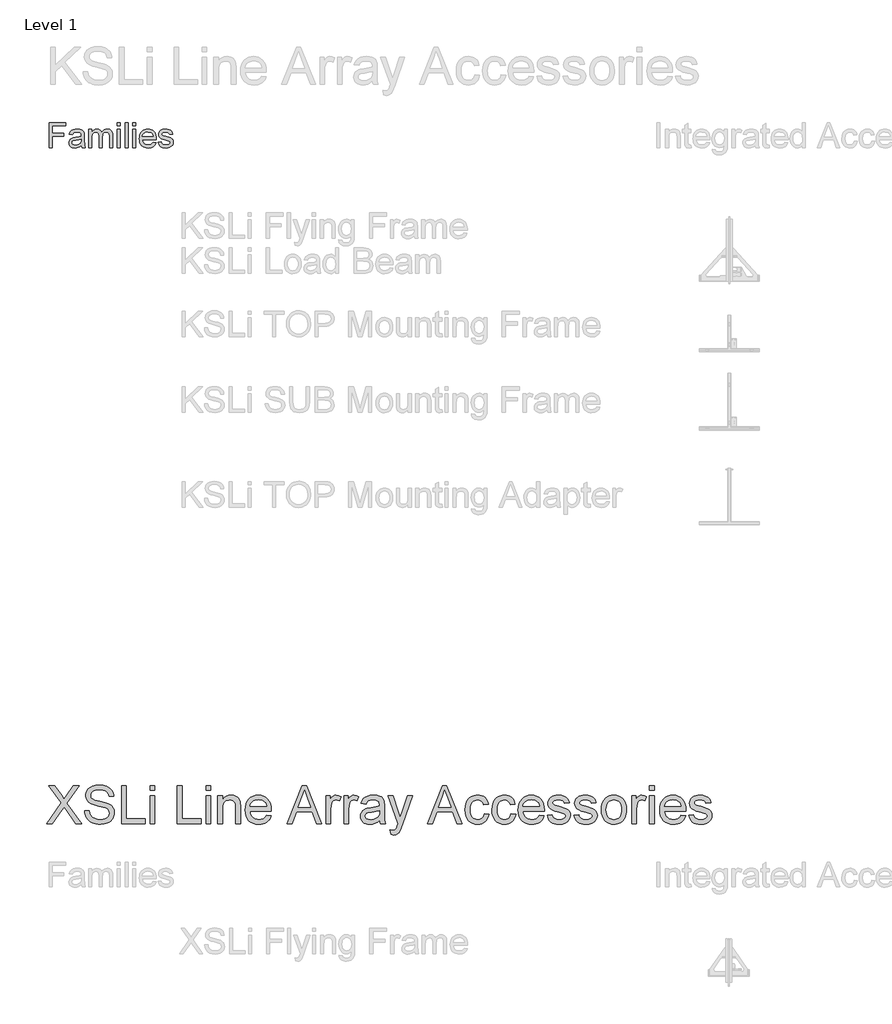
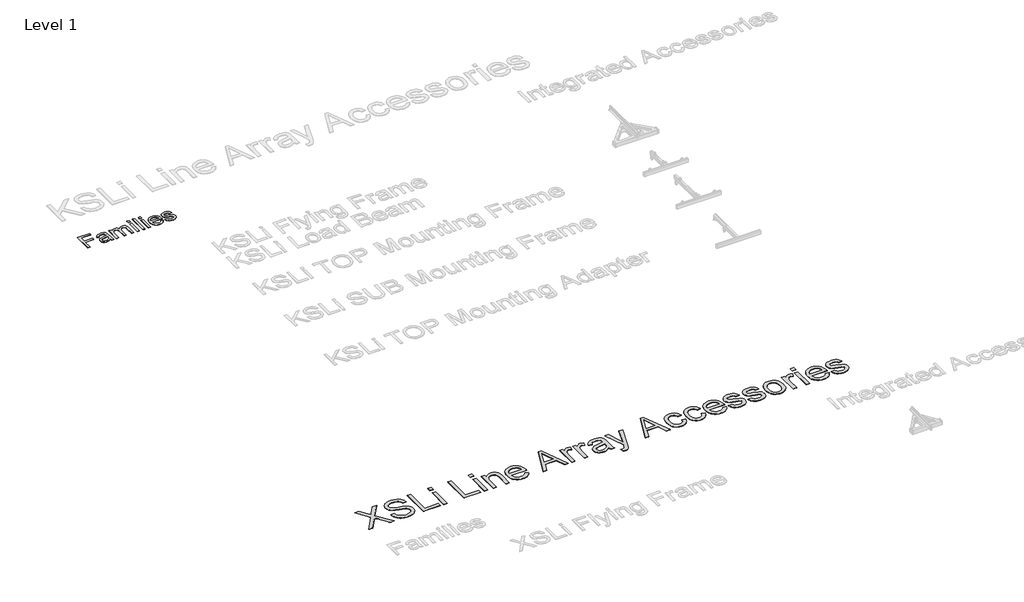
# One storey, part 31 of 52: 2 proxies.
"""IFC4 building model written with IfcOpenShell, lengths in millimetres."""

from ifc_helpers import new_model, si_unit, origin, origin_with_axes, place, context, project, spatial, polyline, outline, extrude, element, save

model = new_model("IFC4")

# Units and contexts
model_context = context("Model", 3, world=origin())
ifc_project = project(units=[si_unit("LENGTHUNIT", "METRE", prefix="MILLI")], contexts=[model_context])

# Site, building, storey
site = spatial("IfcSite", under=ifc_project)
building = spatial("IfcBuilding", under=site)
storey = spatial("IfcBuildingStorey", under=building, Name="Level 1", Elevation=0.0)

# Proxies
placement = place(None, origin())
element("IfcBuildingElementProxy", 1, Name="400mm Arial", ObjectType="400mm Arial", at=placement, inside=storey, context=model_context, shape_type="SweptSolid", body=[
    extrude(outline(polyline([(5943.279109, -49567.5695164), (5943.279109, -49175.8119407), (6206.4912302, -49175.8119407), (6206.4912302, -49224.7816376), (5992.2488059, -49224.7816376), (5992.2488059, -49341.0846679), (6175.8851696, -49341.0846679), (6175.8851696, -49390.0543649), (5992.2488059, -49390.0543649), (5992.2488059, -49567.5695164), (5943.279109, -49567.5695164)])), origin_with_axes(), (0.0, 0.0, 1.0), 5.0),
    extrude(outline(polyline([(6451.339715, -49530.8422437), (6427.9428164, -49550.90356), (6403.8524991, -49564.0306907), (6378.5188107, -49571.2757191), (6351.3917984, -49573.6907285), (6329.5879691, -49572.2381362), (6310.4681478, -49567.8803592), (6294.0323346, -49560.6173976), (6280.2805294, -49550.4492513), (6269.4219534, -49538.0215169), (6261.6658277, -49523.979791), (6257.0121523, -49508.3240737), (6255.4609271, -49491.0543649), (6257.8042037, -49470.7539388), (6264.8340332, -49452.3185695), (6275.6776648, -49436.5373195), (6289.4623476, -49424.1992513), (6323.7506999, -49408.1310695), (6366.120965, -49400.7664861), (6416.1905673, -49393.019327), (6451.0527832, -49383.9331528), (6451.339715, -49373.0297437), (6447.9682662, -49351.1751035), (6437.8539196, -49336.8763346), (6415.2341279, -49326.2598573), (6383.7194499, -49322.7210316), (6354.5480484, -49325.0762636), (6334.1758893, -49332.1419596), (6320.2836071, -49345.2093128), (6310.5518362, -49365.5695164), (6261.5821393, -49359.4483043), (6270.0824944, -49332.6680013), (6282.7672718, -49311.6263346), (6300.8200654, -49295.5342418), (6325.4244688, -49283.6026604), (6355.5164432, -49276.214166), (6390.0319499, -49273.7513346), (6423.1367084, -49275.9272342), (6449.3790143, -49282.4549331), (6469.1653542, -49292.2703924), (6482.902215, -49304.3095732), (6492.0123003, -49319.1941613), (6497.9183135, -49337.5458422), (6500.309412, -49380.394327), (6500.309412, -49441.3195164), (6502.7961544, -49526.3948005), (6512.5518362, -49567.5695164), (6463.5821393, -49567.5695164), (6455.7393362, -49550.5448952), (6451.339715, -49530.8422437)]), holes=[polyline([(6451.339715, -49432.9028498), (6418.4381999, -49441.0564956), (6372.3378211, -49447.9189482), (6330.2066658, -49455.8573952), (6319.2434792, -49461.2851888), (6311.1256999, -49468.769327), (6306.1043931, -49477.7359464), (6304.4306241, -49487.6111831), (6308.0770493, -49502.1729729), (6319.0163249, -49514.1045543), (6337.009341, -49522.0669123), (6361.8169878, -49524.7210316), (6388.1190711, -49521.7919359), (6411.3605484, -49513.004649), (6430.2024044, -49500.0568507), (6443.3056241, -49484.646221), (6449.1159934, -49468.769327), (6451.0527832, -49446.771221), (6451.339715, -49432.9028498)])]), origin_with_axes(), (0.0, 0.0, 1.0), 5.0),
    extrude(outline(polyline([(6567.6427453, -49567.5695164), (6567.6427453, -49279.8725467), (6616.6124423, -49279.8725467), (6616.6124423, -49327.2162967), (6631.341609, -49305.469256), (6650.279109, -49288.4326793), (6672.7793457, -49277.4216708), (6698.1967226, -49273.7513346), (6725.4313343, -49277.4934037), (6747.2620635, -49288.7196111), (6763.5693552, -49306.6887162), (6774.2336544, -49330.6594785), (6792.0832046, -49305.7621656), (6812.4434082, -49287.9783706), (6835.3142652, -49277.3080936), (6860.6957756, -49273.7513346), (6880.2997943, -49275.2308268), (6897.5067368, -49279.6693034), (6912.316603, -49287.0667643), (6924.7293931, -49297.4232096), (6934.5418635, -49310.8581942), (6941.5507709, -49327.4912731), (6945.7561154, -49347.3224461), (6947.1578968, -49370.3517134), (6947.1578968, -49567.5695164), (6898.1881999, -49567.5695164), (6898.1881999, -49391.3933801), (6893.6451128, -49350.505596), (6887.2608798, -49339.2315666), (6877.1943552, -49330.3725467), (6864.2465569, -49324.6339104), (6849.2185029, -49322.7210316), (6822.6892652, -49327.6227835), (6801.0617794, -49342.3280392), (6792.6720126, -49353.6080463), (6786.679322, -49367.84106), (6781.8851696, -49405.1661073), (6781.8851696, -49567.5695164), (6732.9154726, -49567.5695164), (6732.9154726, -49385.9416755), (6730.0820209, -49358.2527551), (6721.5816658, -49338.5022816), (6706.6253448, -49326.6663441), (6684.4239953, -49322.7210316), (6665.5582283, -49325.3512399), (6648.1749423, -49333.2418649), (6633.8283514, -49346.2016187), (6624.0726696, -49364.0392134), (6618.4774991, -49388.7870827), (6616.6124423, -49422.4776604), (6616.6124423, -49567.5695164), (6567.6427453, -49567.5695164)])), origin_with_axes(), (0.0, 0.0, 1.0), 5.0),
    extrude(outline(polyline([(7020.6124423, -49224.7816376), (7020.6124423, -49175.8119407), (7069.5821393, -49175.8119407), (7069.5821393, -49224.7816376), (7020.6124423, -49224.7816376)])), origin_with_axes(), (0.0, 0.0, 1.0), 5.0),
    extrude(outline(polyline([(7020.6124423, -49567.5695164), (7020.6124423, -49279.8725467), (7069.5821393, -49279.8725467), (7069.5821393, -49567.5695164), (7020.6124423, -49567.5695164)])), origin_with_axes(), (0.0, 0.0, 1.0), 5.0),
    extrude(outline(polyline([(7143.0366847, -49567.5695164), (7143.0366847, -49175.8119407), (7192.0063817, -49175.8119407), (7192.0063817, -49567.5695164), (7143.0366847, -49567.5695164)])), origin_with_axes(), (0.0, 0.0, 1.0), 5.0),
    extrude(outline(polyline([(7265.4609271, -49224.7816376), (7265.4609271, -49175.8119407), (7314.4306241, -49175.8119407), (7314.4306241, -49224.7816376), (7265.4609271, -49224.7816376)])), origin_with_axes(), (0.0, 0.0, 1.0), 5.0),
    extrude(outline(polyline([(7265.4609271, -49567.5695164), (7265.4609271, -49279.8725467), (7314.4306241, -49279.8725467), (7314.4306241, -49567.5695164), (7265.4609271, -49567.5695164)])), origin_with_axes(), (0.0, 0.0, 1.0), 5.0),
    extrude(outline(polyline([(7589.3113059, -49481.8725467), (7637.3245635, -49487.9937589), (7629.9629691, -49507.2241684), (7620.024966, -49524.1710789), (7607.5105543, -49538.8344904), (7592.419734, -49551.2144028), (7574.9079264, -49561.0477953), (7555.1305531, -49568.0716471), (7508.779109, -49573.6907285), (7478.394225, -49571.2667525), (7451.3210124, -49563.9948242), (7427.5594712, -49551.8749437), (7407.1096014, -49534.9071111), (7390.6648216, -49513.5635683), (7378.9185503, -49488.3165571), (7371.8707875, -49459.1660777), (7369.5215332, -49426.1121301), (7371.8946985, -49391.937355), (7379.0141942, -49361.8154918), (7390.8800204, -49335.7465406), (7407.4921771, -49313.7305013), (7427.8882472, -49296.2396159), (7451.1058135, -49283.7461263), (7477.144876, -49276.2500325), (7506.0054347, -49273.7513346), (7533.9364539, -49276.2440548), (7559.1954205, -49283.7222153), (7581.7823346, -49296.1858161), (7601.6971961, -49313.6348573), (7617.9536769, -49335.6030747), (7629.5654489, -49361.6242039), (7636.5325121, -49391.6982451), (7638.8548665, -49425.8251982), (7638.5679347, -49439.0240619), (7418.4912302, -49439.0240619), (7421.3276708, -49458.5653142), (7426.9676743, -49475.6796017), (7435.4112408, -49490.3669241), (7446.6583703, -49502.6272816), (7475.0765758, -49519.1975941), (7509.7355484, -49524.7210316), (7535.7985218, -49522.1625562), (7557.7488059, -49514.4871301), (7575.5864006, -49501.2165335), (7589.3113059, -49481.8725467)]), holes=[polyline([(7418.4912302, -49390.0543649), (7589.8851696, -49390.0543649), (7583.2618268, -49364.1826793), (7570.278162, -49345.675577), (7556.923877, -49335.6329634), (7541.7284461, -49328.4596679), (7505.8141468, -49322.7210316), (7472.8050323, -49327.2999852), (7445.5106431, -49341.036846), (7426.5372766, -49362.4491329), (7418.4912302, -49390.0543649)])]), origin_with_axes(), (0.0, 0.0, 1.0), 5.0),
    extrude(outline(polyline([(7669.4609271, -49481.8725467), (7718.4306241, -49475.7513346), (7726.1538722, -49496.6973573), (7741.0982378, -49512.0960316), (7763.3593646, -49521.5647816), (7793.0328968, -49524.7210316), (7822.3477643, -49521.8278024), (7842.9590332, -49513.1481149), (7855.1536355, -49500.5709369), (7859.2185029, -49485.9852361), (7855.1297245, -49473.503702), (7842.8633893, -49463.9871301), (7792.4590332, -49450.0231149), (7718.7175559, -49426.0643081), (7700.0550323, -49414.0251272), (7686.5333703, -49398.0884558), (7678.319947, -49379.2705107), (7675.5821393, -49358.5875089), (7677.7819499, -49339.6141424), (7684.3813817, -49322.099346), (7694.7826601, -49306.7365382), (7708.3880105, -49294.2191376), (7739.5201128, -49279.7290808), (7781.6512681, -49273.7513346), (7813.5246109, -49276.1543886), (7841.2374423, -49283.3635505), (7863.5224802, -49294.6734464), (7879.1124423, -49309.378702), (7889.4419878, -49328.5672674), (7895.9457756, -49353.3270922), (7846.9760787, -49359.4483043), (7840.7950891, -49344.0376746), (7828.5646203, -49332.4288914), (7810.1651175, -49325.1479965), (7785.4770256, -49322.7210316), (7757.3577075, -49325.0403971), (7738.6114953, -49331.9984937), (7728.066751, -49342.0411073), (7724.5518362, -49353.614024), (7730.3861165, -49367.864971), (7748.654109, -49378.6727361), (7790.8330862, -49389.0979255), (7862.7095067, -49412.1481149), (7881.6948287, -49423.1710789), (7896.0892415, -49438.2589104), (7905.1634603, -49457.4594312), (7908.1881999, -49480.8204634), (7904.6374186, -49504.9705581), (7893.9850749, -49527.6859937), (7876.6376554, -49547.1854018), (7853.0016468, -49561.6874142), (7824.4519309, -49570.6899), (7792.3633893, -49573.6907285), (7766.0075062, -49572.244114), (7742.9872056, -49567.9042702), (7723.3024873, -49560.6711973), (7706.9533514, -49550.5448952), (7693.5990664, -49537.5731859), (7682.8989006, -49521.8038914), (7674.8528542, -49503.2370117), (7669.4609271, -49481.8725467)])), origin_with_axes(), (0.0, 0.0, 1.0), 5.0),
])
element("IfcBuildingElementProxy", 2, Name="600mm Arial", ObjectType="600mm Arial", at=placement, inside=storey, context=model_context, shape_type="SweptSolid", body=[
    extrude(outline(polyline([(5900.4306241, -60267.5695164), (6132.7848923, -59939.1244711), (5938.1017404, -59664.8316555), (6028.4535584, -59664.8316555), (6138.082393, -59819.1949407), (6164.2388029, -59858.3007968), (6175.0177453, -59879.3804351), (6218.280668, -59818.1648711), (6326.7322801, -59664.8316555), (6418.4084733, -59664.8316555), (6223.7253215, -59940.0073879), (6456.0795896, -60267.5695164), (6365.7277716, -60267.5695164), (6210.923028, -60049.1947641), (6178.6965653, -60003.8717023), (6143.2327409, -60053.609348), (5992.1068173, -60267.5695164), (5900.4306241, -60267.5695164)])), origin_with_axes(), (0.0, 0.0, 1.0), 5.0),
    extrude(outline(polyline([(6503.168485, -60060.3783767), (6578.5107176, -60060.3783767), (6587.1559445, -60102.1881655), (6602.7909293, -60135.7941858), (6627.1815056, -60162.4656304), (6662.0935069, -60183.4716923), (6704.7678184, -60197.1017203), (6752.4453249, -60201.6450629), (6794.4206606, -60198.2053662), (6831.1720719, -60187.8862763), (6860.9521194, -60171.5523157), (6882.0133636, -60150.0680072), (6894.5397456, -60125.4015194), (6898.7152062, -60099.521021), (6895.5882093, -60074.3027103), (6886.2072184, -60052.505702), (6867.150931, -60033.9092672), (6834.9980447, -60018.2926765), (6725.2956337, -59989.5243045), (6653.2827331, -59970.4864112), (6607.2055133, -59952.368223), (6569.6999438, -59927.0211535), (6543.1204697, -59896.3030069), (6527.2831498, -59860.8759708), (6522.0040432, -59821.4022327), (6523.6365195, -59798.9660295), (6528.5339486, -59777.2747874), (6536.6963304, -59756.3285063), (6548.1236648, -59736.1271862), (6562.6871933, -59717.4939631), (6580.2581571, -59701.2519731), (6600.8365562, -59687.4012159), (6624.4223906, -59675.9416918), (6677.4341861, -59660.5458303), (6736.1113644, -59655.4138765), (6799.6813731, -59660.7849536), (6855.3051308, -59676.898185), (6879.6405248, -59688.9003351), (6900.9960746, -59703.4224768), (6919.3717803, -59720.4646103), (6934.7676418, -59740.0267353), (6947.0640974, -59761.538635), (6956.1415857, -59784.4300922), (6962.0001065, -59808.7011068), (6964.6396598, -59834.3516789), (6889.2974272, -59834.3516789), (6884.2574438, -59810.3105905), (6875.4650641, -59789.3964991), (6862.9202881, -59771.6094046), (6846.6231157, -59756.9493071), (6826.2700443, -59745.489783), (6801.5575713, -59737.3044086), (6772.4856966, -59732.3931839), (6739.0544203, -59730.7561091), (6704.5562862, -59732.3747898), (6675.0797414, -59737.2308322), (6650.6247857, -59745.3242361), (6631.1914193, -59756.6550015), (6616.384169, -59770.2758324), (6605.8075617, -59785.2394326), (6599.4615973, -59801.545802), (6597.3462758, -59819.1949407), (6598.8453949, -59834.3792701), (6603.3427523, -59848.1472537), (6610.838348, -59860.4988917), (6621.3321819, -59871.434184), (6637.8500835, -59881.7900622), (6663.8593405, -59892.2563049), (6744.3519211, -59913.5198843), (6827.4196756, -59933.7166058), (6877.6723561, -59951.3381534), (6920.622579, -59978.6717856), (6937.2278526, -59994.7390318), (6950.5865676, -60012.4065646), (6960.8550737, -60031.5824136), (6968.189721, -60052.1746083), (6974.0574388, -60097.6080347), (6972.3697802, -60121.175475), (6967.3068042, -60144.0531365), (6958.868511, -60166.2410194), (6947.0549004, -60187.7391235), (6932.0729061, -60207.7151158), (6914.1294618, -60225.3366634), (6893.2245675, -60240.6037662), (6869.358223, -60253.5164242), (6843.2248058, -60263.7849304), (6815.518693, -60271.1195777), (6755.3883809, -60276.9872955), (6716.8481434, -60275.4054029), (6681.5728586, -60270.6597252), (6649.5625265, -60262.7502623), (6620.8171471, -60251.6770142), (6595.1619764, -60237.4215869), (6572.4222706, -60219.9655863), (6552.5980296, -60199.3090122), (6535.6892534, -60175.4518648), (6522.0684225, -60149.1666963), (6512.1080175, -60121.2260587), (6505.8080383, -60091.6299522), (6503.168485, -60060.3783767)])), origin_with_axes(), (0.0, 0.0, 1.0), 5.0),
    extrude(outline(polyline([(7087.0707878, -60267.5695164), (7087.0707878, -59664.8316555), (7162.4130204, -59664.8316555), (7162.4130204, -60192.2272838), (7463.7819508, -60192.2272838), (7463.7819508, -60267.5695164), (7087.0707878, -60267.5695164)])), origin_with_axes(), (0.0, 0.0, 1.0), 5.0),
    extrude(outline(polyline([(7539.1241834, -60267.5695164), (7539.1241834, -59824.9338998), (7614.466416, -59824.9338998), (7614.466416, -60267.5695164), (7539.1241834, -60267.5695164)])), origin_with_axes(), (0.0, 0.0, 1.0), 5.0),
    extrude(outline(polyline([(7539.1241834, -59740.1738881), (7539.1241834, -59664.8316555), (7614.466416, -59664.8316555), (7614.466416, -59740.1738881), (7539.1241834, -59740.1738881)])), origin_with_axes(), (0.0, 0.0, 1.0), 5.0),
    extrude(outline(polyline([(7972.342021, -60267.5695164), (7972.342021, -59664.8316555), (8047.6842536, -59664.8316555), (8047.6842536, -60192.2272838), (8349.053184, -60192.2272838), (8349.053184, -60267.5695164), (7972.342021, -60267.5695164)])), origin_with_axes(), (0.0, 0.0, 1.0), 5.0),
    extrude(outline(polyline([(8424.3954166, -60267.5695164), (8424.3954166, -59824.9338998), (8499.7376492, -59824.9338998), (8499.7376492, -60267.5695164), (8424.3954166, -60267.5695164)])), origin_with_axes(), (0.0, 0.0, 1.0), 5.0),
    extrude(outline(polyline([(8424.3954166, -59740.1738881), (8424.3954166, -59664.8316555), (8499.7376492, -59664.8316555), (8499.7376492, -59740.1738881), (8424.3954166, -59740.1738881)])), origin_with_axes(), (0.0, 0.0, 1.0), 5.0),
    extrude(outline(polyline([(8612.7509982, -60267.5695164), (8612.7509982, -59824.9338998), (8688.0932308, -59824.9338998), (8688.0932308, -59886.738075), (8714.2680347, -59855.57847), (8745.7035512, -59833.3216093), (8782.3997802, -59819.9674929), (8824.3567218, -59815.5161208), (8861.4944092, -59819.1029702), (8895.5050997, -59829.8635186), (8923.8688015, -59846.4549965), (8944.065523, -59867.5346349), (8957.7691273, -59893.0472512), (8966.6534775, -59922.9376633), (8970.6266031, -59995.7782984), (8970.6266031, -60267.5695164), (8895.2843705, -60267.5695164), (8895.2843705, -60005.9318415), (8893.1138667, -59966.9731382), (8886.6023554, -59939.2716239), (8874.5910082, -59919.4243903), (8855.920997, -59904.0285288), (8831.9902732, -59894.1508972), (8804.1967884, -59890.8583534), (8781.3191269, -59892.7069604), (8760.0693431, -59898.2527815), (8740.4474372, -59907.4958166), (8722.4534091, -59920.4360658), (8707.4208311, -59938.545057), (8696.6832754, -59963.2943182), (8690.2407419, -59994.6838495), (8688.0932308, -60032.7136507), (8688.0932308, -60267.5695164), (8612.7509982, -60267.5695164)])), origin_with_axes(), (0.0, 0.0, 1.0), 5.0),
    extrude(outline(polyline([(9384.1259656, -60135.7206094), (9457.9966703, -60145.1383884), (9446.6705033, -60174.7252979), (9431.3804079, -60200.7989343), (9412.126384, -60223.3592977), (9388.9084316, -60242.406388), (9361.965674, -60257.535535), (9331.5372344, -60268.3420686), (9297.623113, -60274.8259888), (9260.2233097, -60276.9872955), (9213.4747051, -60273.2578918), (9171.8212662, -60262.0696806), (9135.262993, -60243.422662), (9103.7998853, -60217.3168359), (9078.4988011, -60184.4787693), (9060.4265981, -60145.6350291), (9049.5832763, -60100.7856154), (9045.9688357, -60049.9305281), (9049.6200645, -59997.3509939), (9060.5737509, -59951.0070596), (9078.8298949, -59910.8987251), (9104.3884965, -59877.0259903), (9135.7688307, -59850.1154224), (9171.4901724, -59830.8935882), (9211.5525217, -59819.3604876), (9255.9558785, -59815.5161208), (9298.9290941, -59819.3512906), (9337.7912284, -59830.8568), (9372.5422813, -59850.032649), (9403.182253, -59876.8788375), (9428.1936301, -59910.6779959), (9446.0588995, -59950.712754), (9456.7780612, -59996.9831119), (9460.351115, -60049.4890697), (9459.9096567, -60069.7961558), (9121.3110683, -60069.7961558), (9125.6750685, -60099.8613119), (9134.352485, -60126.1924657), (9147.343318, -60148.7896172), (9164.6475673, -60167.6527665), (9185.3087399, -60182.5243962), (9208.3703424, -60193.1469888), (9233.832375, -60199.5205444), (9261.6948376, -60201.6450629), (9301.7939751, -60197.7087255), (9335.5655423, -60185.8997135), (9363.0095391, -60165.4822628), (9384.1259656, -60135.7206094)]), holes=[polyline([(9121.3110683, -59994.4539232), (9385.0088824, -59994.4539232), (9374.8185512, -59954.6490913), (9366.0537626, -59938.9957124), (9354.8425588, -59926.1750249), (9334.2963494, -59910.7239811), (9310.9174486, -59899.6875213), (9284.7058564, -59893.0656453), (9255.6615729, -59890.8583534), (9229.1694708, -59892.6195884), (9204.8754635, -59897.9032936), (9182.7795512, -59906.7094688), (9162.8817337, -59919.0381142), (9146.1844897, -59934.3190126), (9133.6902974, -59951.9819469), (9125.399157, -59972.0269171), (9121.3110683, -59994.4539232)])]), origin_with_axes(), (0.0, 0.0, 1.0), 5.0),
    extrude(outline(polyline([(9710.363719, -60267.5695164), (9950.9585438, -59664.8316555), (10015.1171638, -59664.8316555), (10255.7119886, -60267.5695164), (10176.1023249, -60267.5695164), (10107.0876626, -60079.2139349), (9858.8408922, -60079.2139349), (9789.9733827, -60267.5695164), (9710.363719, -60267.5695164)]), holes=[polyline([(9886.5056183, -60003.8717023), (10079.5700893, -60003.8717023), (10025.2707068, -59855.6888346), (9983.0378538, -59740.1738881), (9945.5138903, -59842.7393884), (9886.5056183, -60003.8717023)])]), origin_with_axes(), (0.0, 0.0, 1.0), 5.0),
    extrude(outline(polyline([(10326.7867901, -60267.5695164), (10326.7867901, -59824.9338998), (10392.7112436, -59824.9338998), (10392.7112436, -59890.416895), (10417.0650317, -59852.4514731), (10439.5058334, -59830.0842478), (10462.0202115, -59819.1581525), (10486.5947288, -59815.5161208), (10524.1186923, -59821.3286563), (10562.231267, -59838.7662628), (10537.0681385, -59906.3093972), (10510.5806349, -59894.7211143), (10484.0931312, -59890.8583534), (10461.5971472, -59894.5739615), (10441.4923962, -59905.720786), (10425.2504061, -59923.4526981), (10414.3427049, -59946.9235694), (10405.1824433, -59989.0092697), (10402.1290227, -60034.9209427), (10402.1290227, -60267.5695164), (10326.7867901, -60267.5695164)])), origin_with_axes(), (0.0, 0.0, 1.0), 5.0),
    extrude(outline(polyline([(10609.3201624, -60267.5695164), (10609.3201624, -59824.9338998), (10675.2446159, -59824.9338998), (10675.2446159, -59890.416895), (10699.598404, -59852.4514731), (10722.0392057, -59830.0842478), (10744.5535838, -59819.1581525), (10769.1281011, -59815.5161208), (10806.6520646, -59821.3286563), (10844.7646393, -59838.7662628), (10819.6015108, -59906.3093972), (10793.1140072, -59894.7211143), (10766.6265035, -59890.8583534), (10744.1305195, -59894.5739615), (10724.0257685, -59905.720786), (10707.7837784, -59923.4526981), (10696.8760772, -59946.9235694), (10687.7158156, -59989.0092697), (10684.662395, -60034.9209427), (10684.662395, -60267.5695164), (10609.3201624, -60267.5695164)])), origin_with_axes(), (0.0, 0.0, 1.0), 5.0),
    extrude(outline(polyline([(11174.386907, -60211.062842), (11138.3896537, -60241.9281414), (11101.3255427, -60262.1248629), (11062.3484453, -60273.2716874), (11020.612233, -60276.9872955), (10987.0659936, -60274.7524124), (10957.6492295, -60268.047763), (10932.3619409, -60256.8733474), (10911.2041276, -60241.2291656), (10894.4976865, -60222.1084989), (10882.5645143, -60200.5046287), (10875.404611, -60176.4175551), (10873.0179765, -60149.847278), (10876.6232201, -60118.6140966), (10887.4389507, -60090.2503948), (10904.1223992, -60065.9701831), (10925.3307962, -60046.9874721), (10950.2548014, -60032.6400743), (10978.0850743, -60022.265802), (11043.2737639, -60010.9350366), (11120.3082537, -59999.0156599), (11173.9454486, -59985.0361441), (11174.386907, -59968.2607252), (11169.1997708, -59934.6363108), (11162.7158507, -59922.1835053), (11153.6383624, -59912.6369675), (11137.9481954, -59903.1088238), (11118.8367257, -59896.3030069), (11070.3498787, -59890.8583534), (11025.4682753, -59894.481991), (10994.1247293, -59905.352904), (10972.7507854, -59925.457655), (10957.7779882, -59956.7828069), (10882.4357556, -59947.3650278), (10895.5139605, -59906.1622444), (10915.0301004, -59873.7886288), (10942.805191, -59849.0301705), (10980.6602483, -59830.672859), (11026.9581974, -59819.3053053), (11080.0619634, -59815.5161208), (11130.9952256, -59818.8638469), (11171.3702746, -59828.9070254), (11201.8125097, -59844.0085813), (11222.9473303, -59862.5314397), (11236.9636344, -59885.4320939), (11246.0503196, -59913.6670371), (11249.7291396, -59979.5914906), (11249.7291396, -60073.327823), (11253.5551123, -60204.2202369), (11259.2204951, -60236.5754583), (11268.5646977, -60267.5695164), (11193.2224651, -60267.5695164), (11181.1559357, -60241.3763184), (11174.386907, -60211.062842)]), holes=[polyline([(11174.386907, -60060.3783767), (11123.7663444, -60072.9231528), (11052.8386958, -60083.481366), (10988.0178882, -60095.6950483), (10971.1504987, -60104.0459696), (10958.660905, -60115.560676), (10950.9353831, -60129.3562508), (10948.3602091, -60144.5497772), (10953.9704096, -60166.9537907), (10970.8010108, -60185.3111023), (10998.484131, -60197.5615727), (11036.651888, -60201.6450629), (11077.1189074, -60197.1385085), (11112.8770374, -60183.6188451), (11141.8661386, -60163.6980351), (11162.0260719, -60139.9880405), (11170.9656044, -60115.560676), (11173.9454486, -60081.7155325), (11174.386907, -60060.3783767)])]), origin_with_axes(), (0.0, 0.0, 1.0), 5.0),
    extrude(outline(polyline([(11353.3247094, -60437.0895398), (11343.9069304, -60364.5432104), (11382.1666578, -60371.1650863), (11402.289803, -60369.086553), (11417.9247878, -60362.8509532), (11430.1016818, -60352.8997452), (11439.8505547, -60339.6743875), (11460.4519464, -60284.1977826), (11466.3380583, -60265.9508356), (11306.235814, -59824.9338998), (11385.698325, -59824.9338998), (11470.6054895, -60070.6790726), (11500.1832019, -60168.9771417), (11529.7609143, -60082.1569909), (11617.0225236, -59824.9338998), (11695.8964233, -59824.9338998), (11541.8274438, -60278.1645179), (11501.8018827, -60376.462587), (11481.3108555, -60407.8429212), (11458.0975017, -60429.5847471), (11431.1317514, -60442.2766759), (11399.3835352, -60446.5073189), (11377.5681329, -60444.1528741), (11353.3247094, -60437.0895398)])), origin_with_axes(), (0.0, 0.0, 1.0), 5.0),
    extrude(outline(polyline([(11932.959581, -60267.5695164), (12173.5544059, -59664.8316555), (12237.7130258, -59664.8316555), (12478.3078507, -60267.5695164), (12398.6981869, -60267.5695164), (12329.6835246, -60079.2139349), (12081.4367543, -60079.2139349), (12012.5692448, -60267.5695164), (11932.959581, -60267.5695164)]), holes=[polyline([(12109.1014803, -60003.8717023), (12302.1659514, -60003.8717023), (12247.8665689, -59855.6888346), (12205.6337159, -59740.1738881), (12168.1097523, -59842.7393884), (12109.1014803, -60003.8717023)])]), origin_with_axes(), (0.0, 0.0, 1.0), 5.0),
    extrude(outline(polyline([(12831.9160244, -60107.4672721), (12907.2582571, -60116.8850512), (12899.0636856, -60152.4362475), (12886.2521951, -60183.8947566), (12868.8237856, -60211.2605785), (12846.778457, -60234.5337133), (12821.0451115, -60253.1071555), (12792.552651, -60266.3738999), (12761.3010755, -60274.3339466), (12727.290385, -60276.9872955), (12685.0345393, -60273.2854829), (12647.1472924, -60262.1800452), (12613.6286441, -60243.6709823), (12584.4785945, -60217.7582943), (12560.883563, -60184.9294247), (12544.0299691, -60145.6718173), (12533.9178128, -60099.985472), (12530.547094, -60047.8703889), (12536.3044472, -59980.8238953), (12543.5011387, -59950.6529732), (12553.5765069, -59922.7169341), (12566.5995295, -59897.5767983), (12582.6391845, -59875.7935857), (12601.6954719, -59857.3672962), (12623.7683916, -59842.29793), (12647.8600637, -59830.5808885), (12672.9726084, -59822.2115731), (12699.1060257, -59817.1899838), (12726.2603154, -59815.5161208), (12759.6869932, -59817.8153832), (12789.9222947, -59824.7131706), (12816.9662199, -59836.209483), (12840.8187687, -59852.3043203), (12861.0752711, -59872.6298005), (12877.3310567, -59896.8180417), (12889.5861257, -59924.8690438), (12897.840478, -59956.7828069), (12822.4982454, -59966.200586), (12808.8314292, -59933.3303297), (12787.5494558, -59909.7674879), (12759.8295475, -59895.585637), (12726.8489266, -59890.8583534), (12701.2489383, -59893.185207), (12678.1597446, -59900.1657678), (12657.5813455, -59911.8000359), (12639.513741, -59928.0880113), (12624.8030597, -59949.4067729), (12614.2954302, -59976.1333998), (12607.9908525, -60008.2678921), (12605.8893266, -60045.8102497), (12607.9448673, -60083.9182259), (12614.1114892, -60116.4251987), (12624.3891924, -60143.3311681), (12638.777977, -60164.6361342), (12656.4868965, -60180.8275405), (12676.7250048, -60192.3928307), (12699.4923018, -60199.3320048), (12724.7887874, -60201.6450629), (12763.802673, -60195.8693156), (12780.674661, -60188.6496314), (12795.7900125, -60178.5420736), (12808.7256632, -60165.4362775), (12819.0585487, -60149.2218786), (12826.7886691, -60129.8988768), (12831.9160244, -60107.4672721)])), origin_with_axes(), (0.0, 0.0, 1.0), 5.0),
    extrude(outline(polyline([(13255.7160829, -60107.4672721), (13331.0583155, -60116.8850512), (13322.8637441, -60152.4362475), (13310.0522536, -60183.8947566), (13292.6238441, -60211.2605785), (13270.5785155, -60234.5337133), (13244.8451699, -60253.1071555), (13216.3527094, -60266.3738999), (13185.1011339, -60274.3339466), (13151.0904435, -60276.9872955), (13108.8345978, -60273.2854829), (13070.9473508, -60262.1800452), (13037.4287025, -60243.6709823), (13008.2786529, -60217.7582943), (12984.6836215, -60184.9294247), (12967.8300276, -60145.6718173), (12957.7178712, -60099.985472), (12954.3471524, -60047.8703889), (12960.1045057, -59980.8238953), (12967.3011972, -59950.6529732), (12977.3765653, -59922.7169341), (12990.399588, -59897.5767983), (13006.439243, -59875.7935857), (13025.4955303, -59857.3672962), (13047.56845, -59842.29793), (13071.6601222, -59830.5808885), (13096.7726669, -59822.2115731), (13122.9060841, -59817.1899838), (13150.0603739, -59815.5161208), (13183.4870517, -59817.8153832), (13213.7223531, -59824.7131706), (13240.7662783, -59836.209483), (13264.6188272, -59852.3043203), (13284.8753295, -59872.6298005), (13301.1311152, -59896.8180417), (13313.3861842, -59924.8690438), (13321.6405364, -59956.7828069), (13246.2983038, -59966.200586), (13232.6314877, -59933.3303297), (13211.3495143, -59909.7674879), (13183.6296059, -59895.585637), (13150.6489851, -59890.8583534), (13125.0489967, -59893.185207), (13101.959803, -59900.1657678), (13081.3814039, -59911.8000359), (13063.3137994, -59928.0880113), (13048.6031181, -59949.4067729), (13038.0954886, -59976.1333998), (13031.7909109, -60008.2678921), (13029.689385, -60045.8102497), (13031.7449257, -60083.9182259), (13037.9115476, -60116.4251987), (13048.1892509, -60143.3311681), (13062.5780354, -60164.6361342), (13080.286955, -60180.8275405), (13100.5250632, -60192.3928307), (13123.2923602, -60199.3320048), (13148.5888459, -60201.6450629), (13187.6027315, -60195.8693156), (13204.4747195, -60188.6496314), (13219.590071, -60178.5420736), (13232.5257216, -60165.4362775), (13242.8586072, -60149.2218786), (13250.5887276, -60129.8988768), (13255.7160829, -60107.4672721)])), origin_with_axes(), (0.0, 0.0, 1.0), 5.0),
    extrude(outline(polyline([(13706.8865618, -60135.7206094), (13780.7572664, -60145.1383884), (13769.4310995, -60174.7252979), (13754.1410041, -60200.7989343), (13734.8869801, -60223.3592977), (13711.6690277, -60242.406388), (13684.7262701, -60257.535535), (13654.2978306, -60268.3420686), (13620.3837091, -60274.8259888), (13582.9839058, -60276.9872955), (13536.2353013, -60273.2578918), (13494.5818624, -60262.0696806), (13458.0235891, -60243.422662), (13426.5604814, -60217.3168359), (13401.2593972, -60184.4787693), (13383.1871942, -60145.6350291), (13372.3438724, -60100.7856154), (13368.7294318, -60049.9305281), (13372.3806606, -59997.3509939), (13383.334347, -59951.0070596), (13401.590491, -59910.8987251), (13427.1490926, -59877.0259903), (13458.5294268, -59850.1154224), (13494.2507686, -59830.8935882), (13534.3131178, -59819.3604876), (13578.7164747, -59815.5161208), (13621.6896902, -59819.3512906), (13660.5518245, -59830.8568), (13695.3028774, -59850.032649), (13725.9428491, -59876.8788375), (13750.9542263, -59910.6779959), (13768.8194957, -59950.712754), (13779.5386573, -59996.9831119), (13783.1117112, -60049.4890697), (13782.6702528, -60069.7961558), (13444.0716644, -60069.7961558), (13448.4356646, -60099.8613119), (13457.1130811, -60126.1924657), (13470.1039141, -60148.7896172), (13487.4081634, -60167.6527665), (13508.069336, -60182.5243962), (13531.1309386, -60193.1469888), (13556.5929712, -60199.5205444), (13584.4554338, -60201.6450629), (13624.5545712, -60197.7087255), (13658.3261384, -60185.8997135), (13685.7701352, -60165.4822628), (13706.8865618, -60135.7206094)]), holes=[polyline([(13444.0716644, -59994.4539232), (13707.7694786, -59994.4539232), (13697.5791473, -59954.6490913), (13688.8143588, -59938.9957124), (13677.603155, -59926.1750249), (13657.0569455, -59910.7239811), (13633.6780447, -59899.6875213), (13607.4664526, -59893.0656453), (13578.4221691, -59890.8583534), (13551.9300669, -59892.6195884), (13527.6360596, -59897.9032936), (13505.5401473, -59906.7094688), (13485.6423299, -59919.0381142), (13468.9450858, -59934.3190126), (13456.4508936, -59951.9819469), (13448.1597531, -59972.0269171), (13444.0716644, -59994.4539232)])]), origin_with_axes(), (0.0, 0.0, 1.0), 5.0),
    extrude(outline(polyline([(13830.2006066, -60135.7206094), (13905.5428392, -60126.3028303), (13910.0953789, -60143.4829195), (13917.4254276, -60158.5292931), (13927.5329854, -60171.4419511), (13940.4180523, -60182.2208935), (13956.1174165, -60190.7189676), (13974.6678661, -60196.7890206), (14020.3220217, -60201.6450629), (14065.4243543, -60197.1936908), (14082.9539313, -60191.6294756), (14097.1357823, -60183.8395743), (14115.897764, -60164.4889814), (14120.5882594, -60153.6548566), (14122.1517579, -60142.0481797), (14120.5790624, -60131.8762425), (14115.8609758, -60122.8447395), (14096.9886295, -60108.2030361), (14068.7720804, -60098.6381042), (14019.4391049, -60086.7187276), (13950.68196, -60066.8347058), (13905.9842976, -60049.8569517), (13877.2711078, -60031.3340932), (13856.467381, -60006.8147582), (13843.8306345, -59977.8624452), (13839.6183856, -59946.0406526), (13843.0029, -59916.8492163), (13853.1564431, -59889.9018602), (13869.1593098, -59866.265442), (13890.0917954, -59847.0068195), (13910.8955222, -59834.8851078), (13937.9900311, -59824.7131706), (13969.315183, -59817.8153832), (14002.8108387, -59815.5161208), (14051.8495086, -59819.2133348), (14094.4870319, -59830.304977), (14128.7736338, -59847.7057953), (14152.7595399, -59870.330538), (14168.6520421, -59899.8530681), (14178.6584324, -59937.9472487), (14103.3161998, -59947.3650278), (14093.8064502, -59923.6550332), (14074.9892861, -59905.7943624), (14046.6807666, -59894.5923556), (14008.6969506, -59890.8583534), (13965.434028, -59894.4268087), (13936.5920796, -59905.1321748), (13920.3684836, -59920.5832186), (13914.9606182, -59938.3887071), (13917.2046984, -59949.97699), (13923.9369389, -59960.3144741), (13935.4516454, -59969.5483121), (13952.0431234, -59976.9427402), (14016.9375073, -59992.9823952), (14127.5228351, -60028.4462196), (14156.7326655, -60045.4055795), (14178.8791616, -60068.6189334), (14192.8402833, -60098.1598576), (14197.4939905, -60134.1019286), (14192.0309429, -60171.2580101), (14175.6418, -60206.2067996), (14148.9519613, -60236.2075763), (14112.5868261, -60258.5196193), (14068.6617158, -60272.3703765), (14019.2919521, -60276.9872955), (13978.7421592, -60274.7616094), (13943.3243201, -60268.0845512), (13913.0384348, -60256.9561209), (13887.8845034, -60241.3763184), (13867.338294, -60221.4187201), (13850.8755747, -60197.1569026), (13838.4963455, -60168.5908656), (13830.2006066, -60135.7206094)])), origin_with_axes(), (0.0, 0.0, 1.0), 5.0),
    extrude(outline(polyline([(14254.000665, -60135.7206094), (14329.3428976, -60126.3028303), (14333.8954373, -60143.4829195), (14341.2254861, -60158.5292931), (14351.3330439, -60171.4419511), (14364.2181108, -60182.2208935), (14379.9174749, -60190.7189676), (14398.4679245, -60196.7890206), (14444.1220801, -60201.6450629), (14489.2244127, -60197.1936908), (14506.7539898, -60191.6294756), (14520.9358407, -60183.8395743), (14539.6978225, -60164.4889814), (14544.3883179, -60153.6548566), (14545.9518164, -60142.0481797), (14544.3791208, -60131.8762425), (14539.6610343, -60122.8447395), (14520.7886879, -60108.2030361), (14492.5721389, -60098.6381042), (14443.2391633, -60086.7187276), (14374.4820184, -60066.8347058), (14329.784356, -60049.8569517), (14301.0711663, -60031.3340932), (14280.2674395, -60006.8147582), (14267.6306929, -59977.8624452), (14263.4184441, -59946.0406526), (14266.8029584, -59916.8492163), (14276.9565015, -59889.9018602), (14292.9593683, -59866.265442), (14313.8918538, -59847.0068195), (14334.6955806, -59834.8851078), (14361.7900896, -59824.7131706), (14393.1152415, -59817.8153832), (14426.6108971, -59815.5161208), (14475.6495671, -59819.2133348), (14518.2870903, -59830.304977), (14552.5736923, -59847.7057953), (14576.5595984, -59870.330538), (14592.4521006, -59899.8530681), (14602.4584908, -59937.9472487), (14527.1162582, -59947.3650278), (14517.6065086, -59923.6550332), (14498.7893446, -59905.7943624), (14470.4808251, -59894.5923556), (14432.4970091, -59890.8583534), (14389.2340864, -59894.4268087), (14360.392138, -59905.1321748), (14344.168542, -59920.5832186), (14338.7606767, -59938.3887071), (14341.0047569, -59949.97699), (14347.7369974, -59960.3144741), (14359.2517038, -59969.5483121), (14375.8431818, -59976.9427402), (14440.7375657, -59992.9823952), (14551.3228935, -60028.4462196), (14580.5327239, -60045.4055795), (14602.67922, -60068.6189334), (14616.6403417, -60098.1598576), (14621.294049, -60134.1019286), (14615.8310014, -60171.2580101), (14599.4418585, -60206.2067996), (14572.7520197, -60236.2075763), (14536.3868845, -60258.5196193), (14492.4617743, -60272.3703765), (14443.0920105, -60276.9872955), (14402.5422176, -60274.7616094), (14367.1243785, -60268.0845512), (14336.8384933, -60256.9561209), (14311.6845618, -60241.3763184), (14291.1383524, -60221.4187201), (14274.6756331, -60197.1569026), (14262.296404, -60168.5908656), (14254.000665, -60135.7206094)])), origin_with_axes(), (0.0, 0.0, 1.0), 5.0),
    extrude(outline(polyline([(14687.2185025, -60046.2517081), (14691.2927956, -59988.9264962), (14703.5156749, -59939.5291413), (14723.8871404, -59898.0596434), (14752.4071921, -59864.5180025), (14781.1203818, -59843.0796792), (14812.8134157, -59827.7665912), (14847.4862937, -59818.5787384), (14885.1390159, -59815.5161208), (14926.7050829, -59819.2455245), (14964.2888272, -59830.4337357), (14997.8902489, -59849.0807543), (15027.5093481, -59875.1865804), (15051.6837937, -59907.8682971), (15068.9512548, -59946.2429877), (15079.3117315, -59990.3106522), (15082.7652237, -60040.0712906), (15081.2385135, -60080.4003543), (15076.6583826, -60116.1860754), (15069.0248312, -60147.4284539), (15058.3378593, -60174.1274897), (15044.730824, -60197.1890922), (15028.3370825, -60217.519171), (15009.156635, -60235.1177259), (14987.1894814, -60249.9847571), (14963.2909473, -60261.7983676), (14938.3163583, -60270.2366609), (14912.2657145, -60275.2996369), (14885.1390159, -60276.9872955), (14842.9659437, -60273.2716874), (14805.0327115, -60262.1248629), (14771.3393192, -60243.5468221), (14741.885767, -60217.5375651), (14717.9688388, -60184.5385501), (14700.8853186, -60144.9912356), (14690.6352065, -60098.8956216), (14687.2185025, -60046.2517081)]), holes=[polyline([(14762.5607351, -60046.1045553), (14764.740436, -60082.649033), (14771.2795384, -60114.2914831), (14782.1780425, -60141.0319057), (14797.4359483, -60162.8703006), (14815.9955949, -60179.8342591), (14836.7993218, -60191.9513723), (14859.8471288, -60199.2216402), (14885.1390159, -60201.6450629), (14910.3021444, -60199.2078447), (14933.2579809, -60191.89619), (14954.0065254, -60179.7100989), (14972.547778, -60162.6495714), (14987.8056837, -60140.5950458), (14998.7041878, -60113.4269604), (15005.2432903, -60081.1453154), (15007.4229911, -60043.7501106), (15005.2294947, -60008.3644612), (14998.6490055, -59977.5497455), (14987.6815236, -59951.3059637), (14972.3270488, -59929.6331157), (14953.7168183, -59912.6691572), (14932.9820694, -59900.5520439), (14910.1228019, -59893.281776), (14885.1390159, -59890.8583534), (14859.8471288, -59893.272579), (14836.7993218, -59900.5152557), (14815.9955949, -59912.5863837), (14797.4359483, -59929.4859629), (14782.1780425, -59951.2599784), (14771.2795384, -59977.9544157), (14764.740436, -60009.5692747), (14762.5607351, -60046.1045553)])]), origin_with_axes(), (0.0, 0.0, 1.0), 5.0),
    extrude(outline(polyline([(15167.5252354, -60267.5695164), (15167.5252354, -59824.9338998), (15233.449689, -59824.9338998), (15233.449689, -59890.416895), (15257.803477, -59852.4514731), (15280.2442787, -59830.0842478), (15302.7586568, -59819.1581525), (15327.3331741, -59815.5161208), (15364.8571376, -59821.3286563), (15402.9697123, -59838.7662628), (15377.8065839, -59906.3093972), (15351.3190802, -59894.7211143), (15324.8315766, -59890.8583534), (15302.3355926, -59894.5739615), (15282.2308415, -59905.720786), (15265.9888514, -59923.4526981), (15255.0811503, -59946.9235694), (15245.9208886, -59989.0092697), (15242.867468, -60034.9209427), (15242.867468, -60267.5695164), (15167.5252354, -60267.5695164)])), origin_with_axes(), (0.0, 0.0, 1.0), 5.0),
    extrude(outline(polyline([(15450.0586077, -60267.5695164), (15450.0586077, -59824.9338998), (15525.4008403, -59824.9338998), (15525.4008403, -60267.5695164), (15450.0586077, -60267.5695164)])), origin_with_axes(), (0.0, 0.0, 1.0), 5.0),
    extrude(outline(polyline([(15450.0586077, -59740.1738881), (15450.0586077, -59664.8316555), (15525.4008403, -59664.8316555), (15525.4008403, -59740.1738881), (15450.0586077, -59740.1738881)])), origin_with_axes(), (0.0, 0.0, 1.0), 5.0),
    extrude(outline(polyline([(15948.317982, -60135.7206094), (16022.1886866, -60145.1383884), (16010.8625197, -60174.7252979), (15995.5724243, -60200.7989343), (15976.3184003, -60223.3592977), (15953.1004479, -60242.406388), (15926.1576903, -60257.535535), (15895.7292508, -60268.3420686), (15861.8151293, -60274.8259888), (15824.415326, -60276.9872955), (15777.6667215, -60273.2578918), (15736.0132826, -60262.0696806), (15699.4550093, -60243.422662), (15667.9919017, -60217.3168359), (15642.6908174, -60184.4787693), (15624.6186144, -60145.6350291), (15613.7752926, -60100.7856154), (15610.160852, -60049.9305281), (15613.8120808, -59997.3509939), (15624.7657672, -59951.0070596), (15643.0219112, -59910.8987251), (15668.5805129, -59877.0259903), (15699.960847, -59850.1154224), (15735.6821888, -59830.8935882), (15775.744538, -59819.3604876), (15820.1478949, -59815.5161208), (15863.1211104, -59819.3512906), (15901.9832447, -59830.8568), (15936.7342977, -59850.032649), (15967.3742693, -59876.8788375), (15992.3856465, -59910.6779959), (16010.2509159, -59950.712754), (16020.9700775, -59996.9831119), (16024.5431314, -60049.4890697), (16024.101673, -60069.7961558), (15685.5030846, -60069.7961558), (15689.8670848, -60099.8613119), (15698.5445014, -60126.1924657), (15711.5353343, -60148.7896172), (15728.8395837, -60167.6527665), (15749.5007562, -60182.5243962), (15772.5623588, -60193.1469888), (15798.0243914, -60199.5205444), (15825.886854, -60201.6450629), (15865.9859915, -60197.7087255), (15899.7575586, -60185.8997135), (15927.2015555, -60165.4822628), (15948.317982, -60135.7206094)]), holes=[polyline([(15685.5030846, -59994.4539232), (15949.2008988, -59994.4539232), (15939.0105675, -59954.6490913), (15930.245779, -59938.9957124), (15919.0345752, -59926.1750249), (15898.4883657, -59910.7239811), (15875.1094649, -59899.6875213), (15848.8978728, -59893.0656453), (15819.8535893, -59890.8583534), (15793.3614871, -59892.6195884), (15769.0674798, -59897.9032936), (15746.9715675, -59906.7094688), (15727.0737501, -59919.0381142), (15710.376506, -59934.3190126), (15697.8823138, -59951.9819469), (15689.5911733, -59972.0269171), (15685.5030846, -59994.4539232)])]), origin_with_axes(), (0.0, 0.0, 1.0), 5.0),
    extrude(outline(polyline([(16071.6320268, -60135.7206094), (16146.9742594, -60126.3028303), (16151.5267991, -60143.4829195), (16158.8568478, -60158.5292931), (16168.9644056, -60171.4419511), (16181.8494725, -60182.2208935), (16197.5488367, -60190.7189676), (16216.0992863, -60196.7890206), (16261.7534419, -60201.6450629), (16306.8557745, -60197.1936908), (16324.3853516, -60191.6294756), (16338.5672025, -60183.8395743), (16357.3291842, -60164.4889814), (16362.0196797, -60153.6548566), (16363.5831781, -60142.0481797), (16362.0104826, -60131.8762425), (16357.292396, -60122.8447395), (16338.4200497, -60108.2030361), (16310.2035006, -60098.6381042), (16260.8705251, -60086.7187276), (16192.1133802, -60066.8347058), (16147.4157178, -60049.8569517), (16118.702528, -60031.3340932), (16097.8988012, -60006.8147582), (16085.2620547, -59977.8624452), (16081.0498058, -59946.0406526), (16084.4343202, -59916.8492163), (16094.5878633, -59889.9018602), (16110.5907301, -59866.265442), (16131.5232156, -59847.0068195), (16152.3269424, -59834.8851078), (16179.4214514, -59824.7131706), (16210.7466032, -59817.8153832), (16244.2422589, -59815.5161208), (16293.2809289, -59819.2133348), (16335.9184521, -59830.304977), (16370.2050541, -59847.7057953), (16394.1909601, -59870.330538), (16410.0834623, -59899.8530681), (16420.0898526, -59937.9472487), (16344.74762, -59947.3650278), (16335.2378704, -59923.6550332), (16316.4207064, -59905.7943624), (16288.1121868, -59894.5923556), (16250.1283708, -59890.8583534), (16206.8654482, -59894.4268087), (16178.0234998, -59905.1321748), (16161.7999038, -59920.5832186), (16156.3920385, -59938.3887071), (16158.6361186, -59949.97699), (16165.3683591, -59960.3144741), (16176.8830656, -59969.5483121), (16193.4745436, -59976.9427402), (16258.3689275, -59992.9823952), (16368.9542553, -60028.4462196), (16398.1640857, -60045.4055795), (16420.3105818, -60068.6189334), (16434.2717035, -60098.1598576), (16438.9254108, -60134.1019286), (16433.4623631, -60171.2580101), (16417.0732202, -60206.2067996), (16390.3833815, -60236.2075763), (16354.0182463, -60258.5196193), (16310.093136, -60272.3703765), (16260.7233723, -60276.9872955), (16220.1735794, -60274.7616094), (16184.7557403, -60268.0845512), (16154.469855, -60256.9561209), (16129.3159236, -60241.3763184), (16108.7697142, -60221.4187201), (16092.3069949, -60197.1569026), (16079.9277658, -60168.5908656), (16071.6320268, -60135.7206094)])), origin_with_axes(), (0.0, 0.0, 1.0), 5.0),
])

save(model, "model.ifc")
